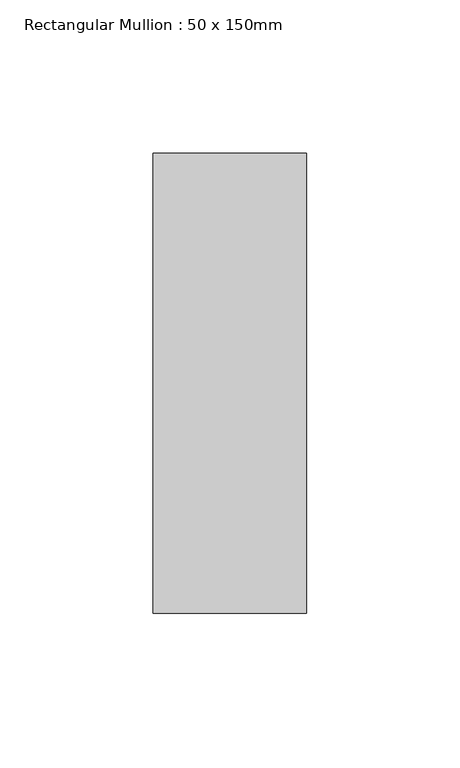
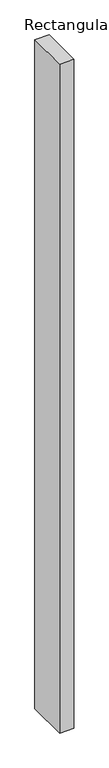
"""IFC4 building model written with IfcOpenShell, lengths in millimetres: member geometry, Rectangular Mullion : 50 x 150mm."""

from ifc_helpers import new_model, si_unit, frame, origin, place, context, project, spatial, polyline, outline, extrude, source, transform, mapped, element, save


def rectangular_mullion_50_x_150mm_26a5e8d8(model_context):
    return source(origin(), model_context, "Body", "SweptSolid", [
        extrude(outline(polyline([(25.0, 75.0), (25.0, -75.0), (-25.0, -75.0), (-25.0, 75.0), (25.0, 75.0)])), frame((0.0, 0.0, -2490.0), z_axis=(0.0, 0.0, 1.0), x_axis=(1.0, 0.0, 0.0)), (0.0, 0.0, 1.0), 2490.0),
    ])


if __name__ == "__main__":
    model = new_model("IFC4")
    model_context = context("Model", 3, world=origin())
    ifc_project = project(units=[si_unit("LENGTHUNIT", "METRE", prefix="MILLI")], contexts=[model_context])
    site = spatial("IfcSite", under=ifc_project)
    building = spatial("IfcBuilding", under=site)
    placement = place(None, origin())
    rectangular_mullion_50_x_150mm_shape = rectangular_mullion_50_x_150mm_26a5e8d8(model_context)
    element("IfcMember", 1, ObjectType="Rectangular Mullion : 50 x 150mm", at=placement, inside=building, context=model_context, shape_type="MappedRepresentation", body=[
        mapped(rectangular_mullion_50_x_150mm_shape, transform((0.0, 0.0, 0.0), x_axis=(1.0, 0.0, 0.0), y_axis=(0.0, 1.0, 0.0), z_axis=(0.0, 0.0, 1.0))),
    ])
    save(model, "model.ifc")
